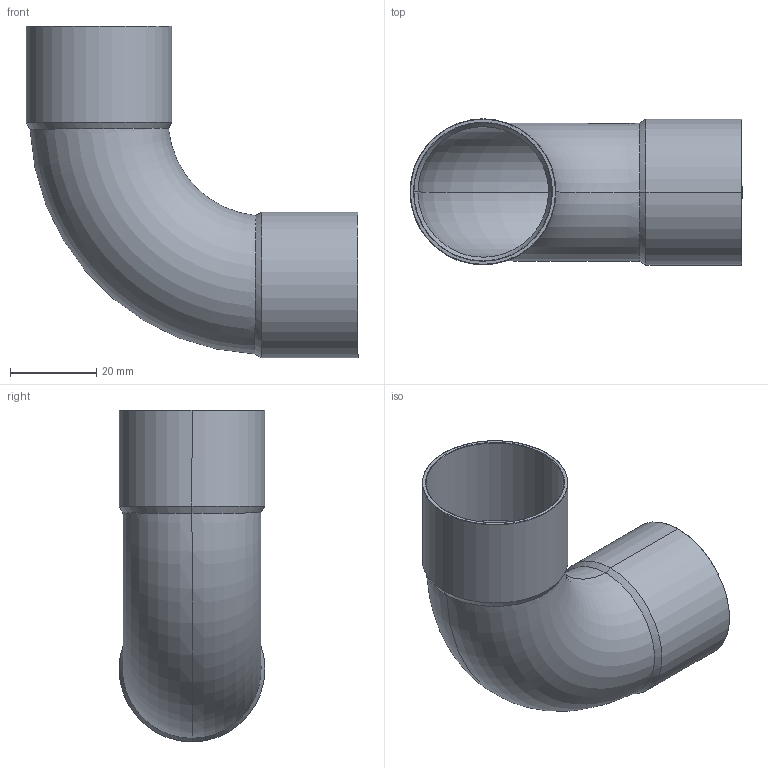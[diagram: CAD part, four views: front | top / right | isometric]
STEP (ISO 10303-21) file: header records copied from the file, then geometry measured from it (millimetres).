
FILE_DESCRIPTION((''),'2;1');
FILE_NAME('D:\5002\15002a32.stp','2005-10-04T11:39:49',('Kris'),(''),'Autodesk Inventor 8','Autodesk Inventor 8','');
FILE_SCHEMA(('AUTOMOTIVE_DESIGN { 1 0 10303 214 1 1 1 1 }'));
Length unit declared in the file: millimetre
Products named in the file (1): 15002a32
Bounding box: 76.9 x 33.8 x 76.9 mm (x, y, z)
Volume: 9376.5 mm3; surface area: 21002.9 mm2
Topology: 1 solids, 1 shells, 30 faces, 60 edges, 32 vertices
Faces by surface type: cone 12, bspline 9, torus 4, cylinder 4, plane 1
Entity records: 1031 total; most frequent: CARTESIAN_POINT 418, DIRECTION 124, ORIENTED_EDGE 120, EDGE_CURVE 60, AXIS2_PLACEMENT_3D 50, VERTEX_POINT 32, EDGE_LOOP 32, FACE_OUTER_BOUND 30
